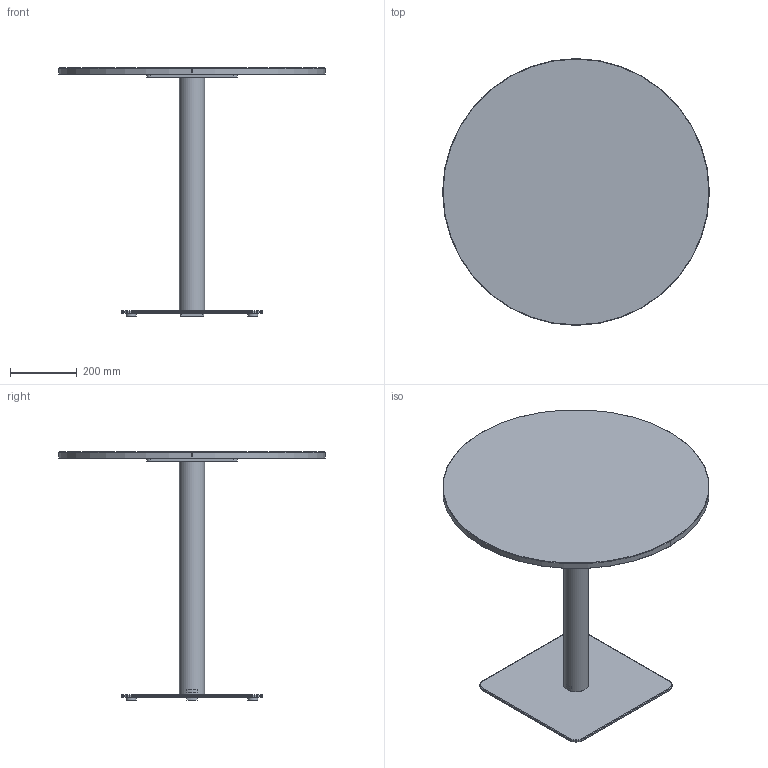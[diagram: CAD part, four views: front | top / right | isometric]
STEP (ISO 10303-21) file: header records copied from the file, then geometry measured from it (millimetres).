
FILE_DESCRIPTION( ('This file contains a STEP AP42 implementation' ,'as created by ZW3D STEP Interface translator.') ,'2;1' );
FILE_NAME( 'Henri - B_Carré - F1 - M1 - 800 x 800 x 750.stp' ,'24 912.161441', (''), ('ZWCAD Software Co.'), 'Version 1.0', 'ZW3D to STEP translator', '' );
FILE_SCHEMA(('AUTOMOTIVE_DESIGN { 1 0 10303 214 1 1 1 1 }'));
Length unit declared in the file: millimetre
Products named in the file (14): 0; PIED BISTROT PARAMETRIQUE_; COLONNE ACIER Ø76 V.02_; TUB-D076-02_; PLA-R76B-01_; CROIX ACIER 370 V.02_; CRX-X370-02_; SOCLE ACIER L 425x425 V.02_; SCL-R425-02_; PLA-R30A-01_; PLA-R30A-01; WUERTH 0276063020 Euro-screw 6.3x2 Verzinkt_; PLATEAU BISTROT PARAMETRIQUE_; insert_m6_13_
Assembly tree (22 placements, depth 3):
  0
  PIED BISTROT PARAMETRIQUE_
    COLONNE ACIER Ø76 V.02_
      TUB-D076-02_
      PLA-R76B-01_  x2
    CROIX ACIER 370 V.02_
      CRX-X370-02_
    SOCLE ACIER L 425x425 V.02_
      SCL-R425-02_
      PLA-R30A-01_
      PLA-R30A-01  x3
    WUERTH 0276063020 Euro-screw 6.3x2 Verzinkt_
    PLATEAU BISTROT PARAMETRIQUE_
      insert_m6_13_  x8
Bounding box: 800 x 800 x 744 mm (x, y, z)
Volume: 12432111.1 mm3; surface area: 1945138.7 mm2
Topology: 19 solids, 19 shells, 537 faces, 1310 edges, 822 vertices
Faces by surface type: plane 262, bspline 121, cylinder 98, cone 55, torus 1
Full cylindrical faces by diameter (mm): 4.88 x1, 6 x8, 6.3 x1, 8 x45, 12 x2, 14 x2, 30 x4, 72 x1, 76 x1
Entity records: 12310 total; most frequent: CARTESIAN_POINT 3396, ORIENTED_EDGE 1624, DIRECTION 1519, EDGE_CURVE 812, VERTEX_POINT 518, VECTOR 513, LINE 513, AXIS2_PLACEMENT_3D 503
